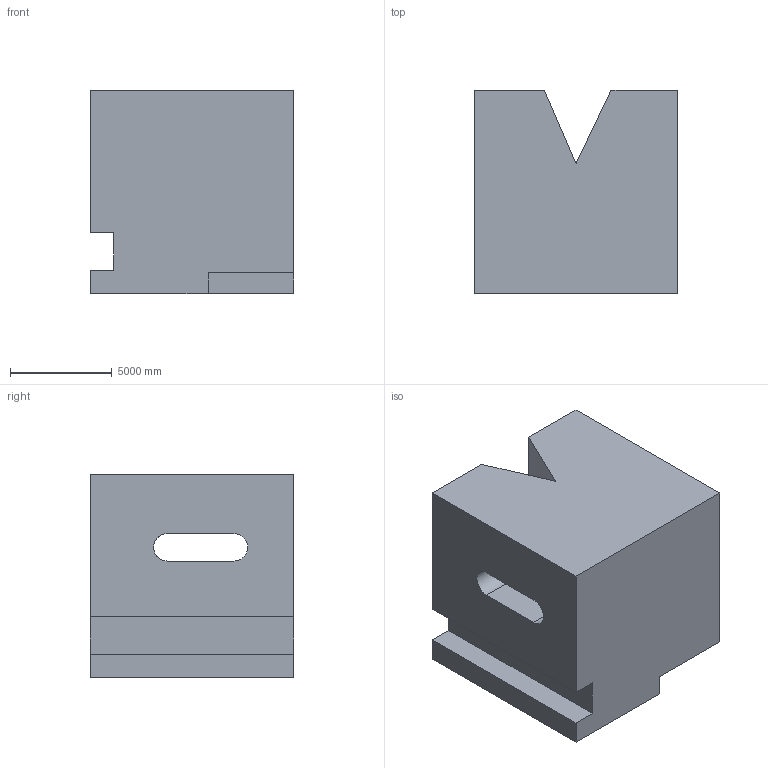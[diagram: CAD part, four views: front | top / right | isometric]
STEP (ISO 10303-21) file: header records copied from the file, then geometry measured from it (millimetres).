
FILE_DESCRIPTION (( 'STEP AP203' ), '1' );
FILE_NAME ('387.STEP', '2022-08-04T14:22:45', ( 'user' ), ( '' ), 'SwSTEP 2.0', 'SolidWorks 2021', '' );
FILE_SCHEMA (( 'CONFIG_CONTROL_DESIGN' ));
Length unit declared in the file: centimetre
Products named in the file (1): 387
Bounding box: 10000 x 10000 x 10000 mm (x, y, z)
Volume: 854513467994.7 mm3; surface area: 747890549.2 mm2
Topology: 1 solids, 1 shells, 20 faces, 57 edges, 38 vertices
Faces by surface type: plane 18, cylinder 2
Entity records: 730 total; most frequent: CARTESIAN_POINT 122, ORIENTED_EDGE 114, DIRECTION 101, EDGE_CURVE 57, VECTOR 51, LINE 51, VERTEX_POINT 38, AXIS2_PLACEMENT_3D 25
